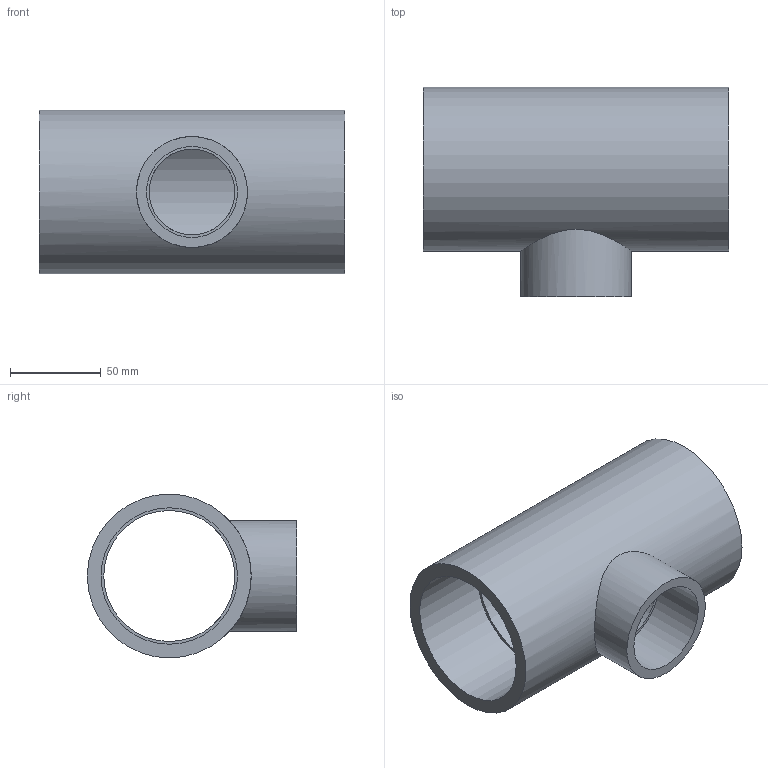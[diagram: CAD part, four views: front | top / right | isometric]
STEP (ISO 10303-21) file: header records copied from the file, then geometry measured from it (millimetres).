
FILE_DESCRIPTION(/* description */ ('PVC ti a 90° ridotto incollaggio metrico'),/* implementation_level */ '2;1');
FILE_NAME(/* name */ 'C:\Users\POLYPIPE\Desktop\DATASET INVENTOR\LIBRERIA EFFAST\RACCORDI 3DxWEB\RDR\3D_RDRTRD\3D_RDRTRD075F.stp',/* time_stamp */ '2018-01-19T15:48:26+01:00',/* author */ ('POLYPIPE'),/* organization */ ('Polypipe Italia s.r.l.'),/* preprocessor_version */ 'ST-DEVELOPER v16.1',/* originating_system */ 'Autodesk Inventor 2016',/* authorisation */ '');
FILE_SCHEMA (('CONFIG_CONTROL_DESIGN'));
Length unit declared in the file: millimetre
Products named in the file (1): 3D_RDRTRD
Bounding box: 168 x 115 x 90 mm (x, y, z)
Volume: 365157.3 mm3; surface area: 98980 mm2
Topology: 1 solids, 1 shells, 13 faces, 23 edges, 16 vertices
Faces by surface type: cylinder 7, plane 6
Full cylindrical faces by diameter (mm): 47 x1, 50 x1, 61 x1, 72 x1, 75 x2, 90 x1
Entity records: 430 total; most frequent: CARTESIAN_POINT 172, DIRECTION 52, EDGE_LOOP 28, ORIENTED_EDGE 28, AXIS2_PLACEMENT_3D 26, FACE_BOUND 15, VERTEX_POINT 14, EDGE_CURVE 14
